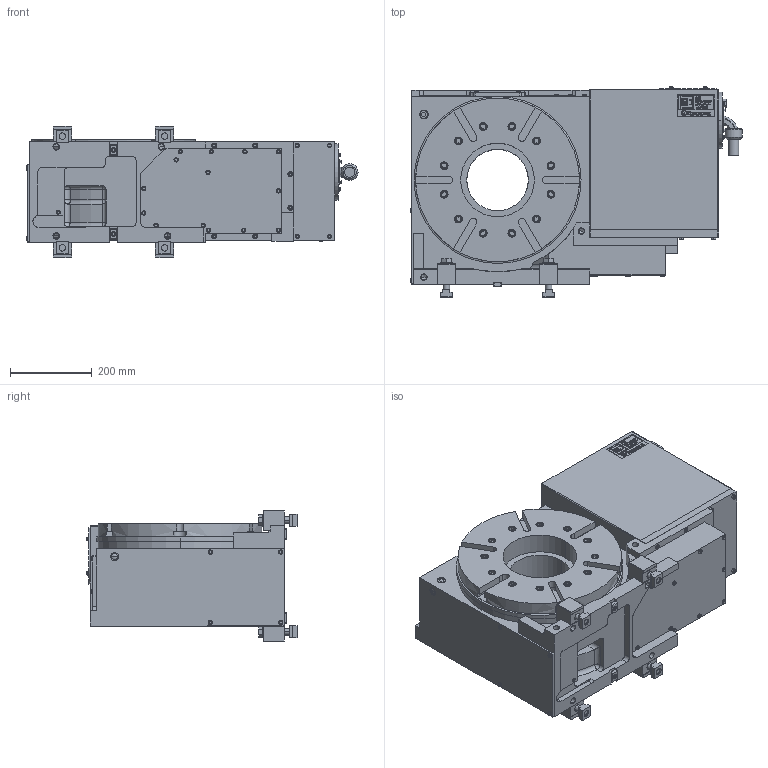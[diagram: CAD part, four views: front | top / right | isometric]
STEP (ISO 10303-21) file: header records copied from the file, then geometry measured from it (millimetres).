
FILE_DESCRIPTION (( 'STEP AP214' ), '1' );
FILE_NAME ('TR400H2V.STEP', '2020-02-28T08:36:07', ( '' ), ( '' ), 'SwSTEP 2.0', 'SolidWorks 2017', '' );
FILE_SCHEMA (( 'AUTOMOTIVE_DESIGN' ));
Length unit declared in the file: millimetre
Products named in the file (15): 儂儞僞僀ASSY(61E1129651)TR400H01; TR400H2V; CLAMPING PARTS(61E430706)結合; TR400H2V00儂儞僞僀; キタガワシール; 働乕僽儖N29ZSZ2562; KQ2E06-01; 僇僶乕丂俹(61E4458433)MR250RAM01; コネクタプレート(61E4479762)TRX320B20; モータケース(TR400H2V00); フランジ(61E285516)TR400B2V02; ガイドブロック(61M4197783); TR400H01僋儈僞僥(61E500777); オイルゲージ 207; テーブル(61E3387971)TR400H00
Assembly tree (19 placements, depth 4):
  TR400H2V
    TR400H2V00儂儞僞僀
      TR400H01僋儈僞僥(61E500777)
        儂儞僞僀ASSY(61E1129651)TR400H01
        テーブル(61E3387971)TR400H00
        オイルゲージ 207
      ガイドブロック(61M4197783)  x2
      フランジ(61E285516)TR400B2V02
      モータケース(TR400H2V00)
      コネクタプレート(61E4479762)TRX320B20
      僇僶乕丂俹(61E4458433)MR250RAM01  x2
      KQ2E06-01
      働乕僽儖N29ZSZ2562
      キタガワシール
    CLAMPING PARTS(61E430706)結合  x4
Bounding box: 811.3 x 513.7 x 321 mm (x, y, z)
Volume: 68383612.6 mm3; surface area: 2509520.1 mm2
Topology: 17 solids, 17 shells, 3238 faces, 8347 edges, 5401 vertices
Faces by surface type: plane 2273, cylinder 670, cone 161, torus 101, sphere 18, bspline 15
Entity records: 104578 total; most frequent: CARTESIAN_POINT 17638, ORIENTED_EDGE 15538, DIRECTION 15298, EDGE_CURVE 7769, LINE 6124, VECTOR 6124, VERTEX_POINT 5060, AXIS2_PLACEMENT_3D 4587
